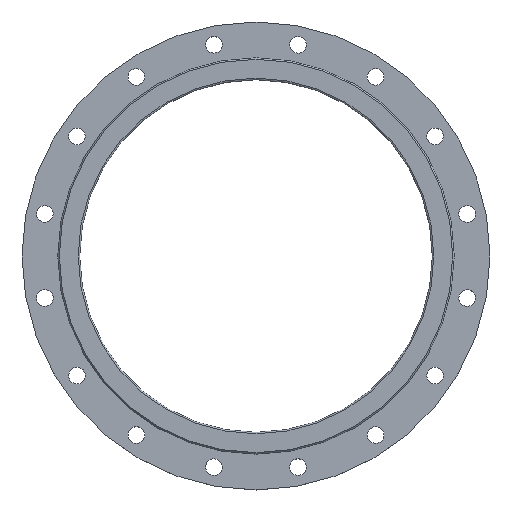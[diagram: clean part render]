
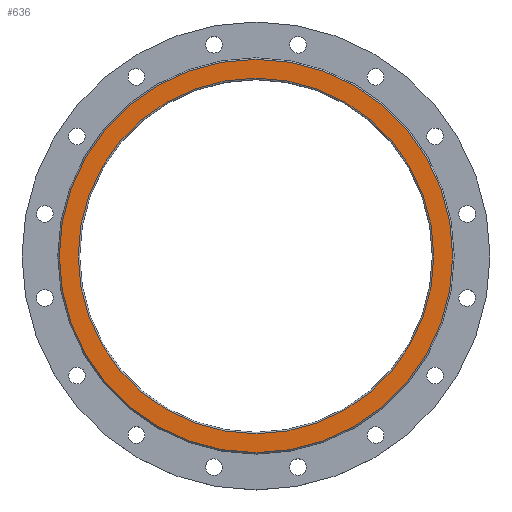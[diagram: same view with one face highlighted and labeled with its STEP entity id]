
A CAD part, top view. The second image highlights one B-rep face of the part: STEP entity #636.
In plain terms, the highlighted planar face has unit normal (0, 0, 1).
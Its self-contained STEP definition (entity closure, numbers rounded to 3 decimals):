
#37=FACE_BOUND('',#125,.T.);
#57=PLANE('',#742);
#80=FACE_OUTER_BOUND('',#124,.T.);
#124=EDGE_LOOP('',(#549,#550));
#125=EDGE_LOOP('',(#551));
#244=CIRCLE('',#733,390.);
#245=CIRCLE('',#734,390.);
#246=CIRCLE('',#736,352.6);
#313=VERTEX_POINT('',#1113);
#314=VERTEX_POINT('',#1114);
#315=VERTEX_POINT('',#1119);
#396=EDGE_CURVE('',#313,#314,#244,.T.);
#397=EDGE_CURVE('',#314,#313,#245,.T.);
#399=EDGE_CURVE('',#315,#315,#246,.T.);
#549=ORIENTED_EDGE('',*,*,#396,.T.);
#550=ORIENTED_EDGE('',*,*,#397,.T.);
#551=ORIENTED_EDGE('',*,*,#399,.F.);
#636=ADVANCED_FACE('',(#80,#37),#57,.T.);
#733=AXIS2_PLACEMENT_3D('',#1115,#917,#918);
#734=AXIS2_PLACEMENT_3D('',#1116,#919,#920);
#736=AXIS2_PLACEMENT_3D('',#1120,#924,#925);
#742=AXIS2_PLACEMENT_3D('',#1130,#937,#938);
#917=DIRECTION('center_axis',(0.,0.,1.));
#918=DIRECTION('ref_axis',(1.,0.,0.));
#919=DIRECTION('center_axis',(0.,0.,1.));
#920=DIRECTION('ref_axis',(1.,0.,0.));
#924=DIRECTION('center_axis',(0.,0.,1.));
#925=DIRECTION('ref_axis',(-1.,0.,0.));
#937=DIRECTION('center_axis',(0.,0.,1.));
#938=DIRECTION('ref_axis',(1.,0.,0.));
#1113=CARTESIAN_POINT('',(390.,0.,0.));
#1114=CARTESIAN_POINT('',(-390.,0.,0.));
#1115=CARTESIAN_POINT('Origin',(0.,0.,0.));
#1116=CARTESIAN_POINT('Origin',(0.,0.,0.));
#1119=CARTESIAN_POINT('',(352.6,0.,0.));
#1120=CARTESIAN_POINT('Origin',(0.,0.,0.));
#1130=CARTESIAN_POINT('Origin',(0.,0.,0.));
